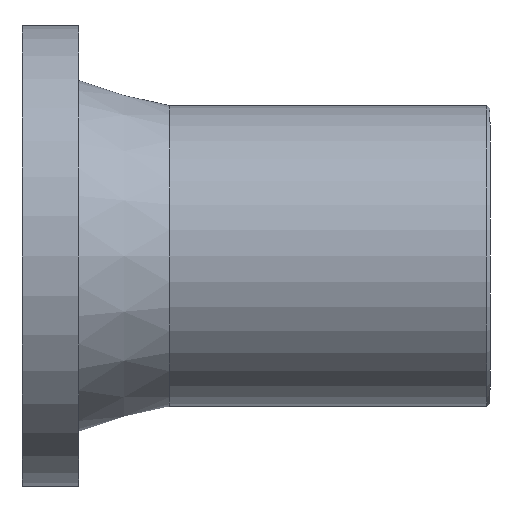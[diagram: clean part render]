
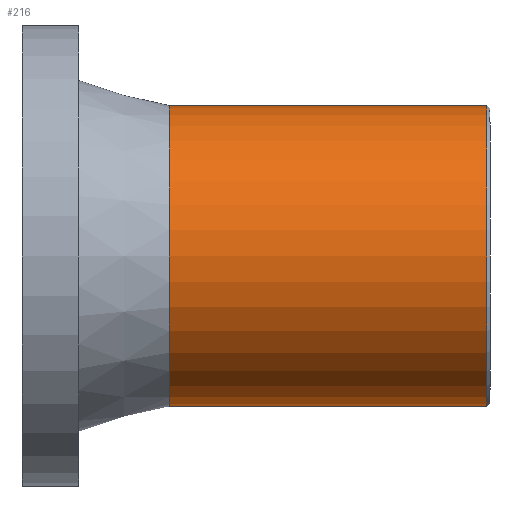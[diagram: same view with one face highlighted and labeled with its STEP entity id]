
A CAD part, front view. The second image highlights one B-rep face of the part: STEP entity #216.
In plain terms, the highlighted cylindrical face has radius 45 mm (diameter 90 mm), a full revolution.
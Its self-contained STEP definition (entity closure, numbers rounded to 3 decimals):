
#24=CYLINDRICAL_SURFACE('',#240,45.);
#34=FACE_BOUND('',#76,.T.);
#54=FACE_OUTER_BOUND('',#75,.T.);
#75=EDGE_LOOP('',(#175));
#76=EDGE_LOOP('',(#176));
#113=CIRCLE('',#238,45.);
#115=CIRCLE('',#241,45.);
#133=VERTEX_POINT('',#361);
#135=VERTEX_POINT('',#366);
#153=EDGE_CURVE('',#133,#133,#113,.T.);
#155=EDGE_CURVE('',#135,#135,#115,.T.);
#175=ORIENTED_EDGE('',*,*,#155,.T.);
#176=ORIENTED_EDGE('',*,*,#153,.F.);
#216=ADVANCED_FACE('',(#54,#34),#24,.T.);
#238=AXIS2_PLACEMENT_3D('',#362,#281,#282);
#240=AXIS2_PLACEMENT_3D('',#365,#285,#286);
#241=AXIS2_PLACEMENT_3D('',#367,#287,#288);
#281=DIRECTION('center_axis',(1.,0.,0.));
#282=DIRECTION('ref_axis',(0.,-1.,0.));
#285=DIRECTION('center_axis',(1.,0.,0.));
#286=DIRECTION('ref_axis',(0.,1.,0.));
#287=DIRECTION('center_axis',(1.,0.,0.));
#288=DIRECTION('ref_axis',(0.,0.,-1.));
#361=CARTESIAN_POINT('',(-0.9,45.,0.));
#362=CARTESIAN_POINT('Origin',(-0.9,0.,
0.));
#365=CARTESIAN_POINT('Origin',(-48.,0.,0.));
#366=CARTESIAN_POINT('',(-96.,45.,0.));
#367=CARTESIAN_POINT('Origin',(-96.,0.,0.));
